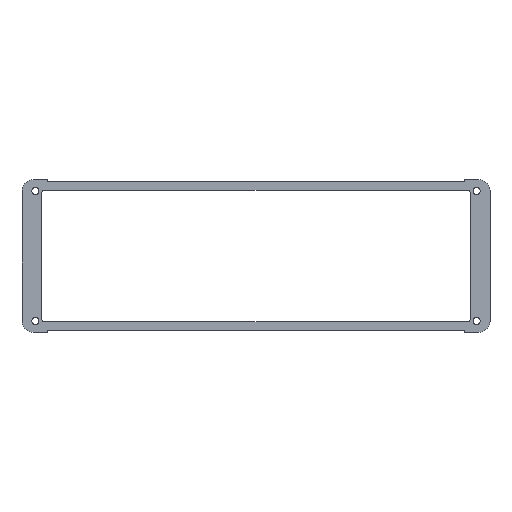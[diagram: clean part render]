
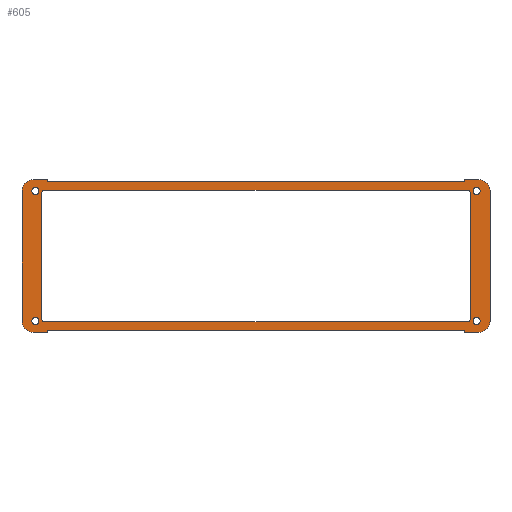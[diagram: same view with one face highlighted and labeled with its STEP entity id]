
A CAD part, top view. The second image highlights one B-rep face of the part: STEP entity #605.
In plain terms, the highlighted planar face has unit normal (0, 0, 1).
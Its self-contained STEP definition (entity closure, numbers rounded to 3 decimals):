
#15=FACE_BOUND('',#102,.T.);
#16=FACE_BOUND('',#103,.T.);
#17=FACE_BOUND('',#104,.T.);
#18=FACE_BOUND('',#105,.T.);
#19=FACE_BOUND('',#106,.T.);
#41=PLANE('',#682);
#71=FACE_OUTER_BOUND('',#101,.T.);
#101=EDGE_LOOP('',(#509,#510,#511,#512,#513,#514,#515,#516,#517,#518,#519,
#520,#521,#522,#523,#524));
#102=EDGE_LOOP('',(#525,#526,#527,#528,#529,#530,#531,#532));
#103=EDGE_LOOP('',(#533));
#104=EDGE_LOOP('',(#534));
#105=EDGE_LOOP('',(#535));
#106=EDGE_LOOP('',(#536));
#115=LINE('',#866,#175);
#119=LINE('',#878,#179);
#123=LINE('',#890,#183);
#127=LINE('',#901,#187);
#133=LINE('',#930,#193);
#138=LINE('',#944,#198);
#142=LINE('',#956,#202);
#145=LINE('',#962,#205);
#148=LINE('',#968,#208);
#151=LINE('',#974,#211);
#154=LINE('',#980,#214);
#158=LINE('',#992,#218);
#162=LINE('',#1004,#222);
#165=LINE('',#1010,#225);
#168=LINE('',#1016,#228);
#171=LINE('',#1021,#231);
#175=VECTOR('',#696,10.);
#179=VECTOR('',#708,10.);
#183=VECTOR('',#720,10.);
#187=VECTOR('',#732,10.);
#193=VECTOR('',#764,10.);
#198=VECTOR('',#777,10.);
#202=VECTOR('',#789,10.);
#205=VECTOR('',#794,10.);
#208=VECTOR('',#799,10.);
#211=VECTOR('',#804,10.);
#214=VECTOR('',#809,10.);
#218=VECTOR('',#821,10.);
#222=VECTOR('',#833,10.);
#225=VECTOR('',#838,10.);
#228=VECTOR('',#843,10.);
#231=VECTOR('',#848,10.);
#233=CIRCLE('',#631,1.);
#235=CIRCLE('',#635,1.);
#237=CIRCLE('',#639,1.);
#239=CIRCLE('',#643,1.);
#242=CIRCLE('',#648,1.25);
#244=CIRCLE('',#651,1.25);
#246=CIRCLE('',#654,1.25);
#248=CIRCLE('',#657,1.25);
#249=CIRCLE('',#660,4.);
#251=CIRCLE('',#664,4.);
#253=CIRCLE('',#672,4.);
#255=CIRCLE('',#676,4.);
#257=VERTEX_POINT('',#856);
#258=VERTEX_POINT('',#857);
#261=VERTEX_POINT('',#865);
#263=VERTEX_POINT('',#871);
#265=VERTEX_POINT('',#877);
#267=VERTEX_POINT('',#883);
#269=VERTEX_POINT('',#889);
#271=VERTEX_POINT('',#895);
#274=VERTEX_POINT('',#906);
#276=VERTEX_POINT('',#912);
#278=VERTEX_POINT('',#918);
#280=VERTEX_POINT('',#924);
#281=VERTEX_POINT('',#928);
#282=VERTEX_POINT('',#929);
#285=VERTEX_POINT('',#937);
#287=VERTEX_POINT('',#943);
#289=VERTEX_POINT('',#949);
#291=VERTEX_POINT('',#955);
#293=VERTEX_POINT('',#961);
#295=VERTEX_POINT('',#967);
#297=VERTEX_POINT('',#973);
#299=VERTEX_POINT('',#979);
#301=VERTEX_POINT('',#985);
#303=VERTEX_POINT('',#991);
#305=VERTEX_POINT('',#997);
#307=VERTEX_POINT('',#1003);
#309=VERTEX_POINT('',#1009);
#311=VERTEX_POINT('',#1015);
#313=EDGE_CURVE('',#257,#258,#233,.T.);
#317=EDGE_CURVE('',#258,#261,#115,.T.);
#320=EDGE_CURVE('',#261,#263,#235,.T.);
#323=EDGE_CURVE('',#263,#265,#119,.T.);
#326=EDGE_CURVE('',#265,#267,#237,.T.);
#329=EDGE_CURVE('',#267,#269,#123,.T.);
#332=EDGE_CURVE('',#269,#271,#239,.T.);
#335=EDGE_CURVE('',#271,#257,#127,.T.);
#339=EDGE_CURVE('',#274,#274,#242,.T.);
#342=EDGE_CURVE('',#276,#276,#244,.T.);
#345=EDGE_CURVE('',#278,#278,#246,.T.);
#348=EDGE_CURVE('',#280,#280,#248,.T.);
#349=EDGE_CURVE('',#281,#282,#133,.T.);
#353=EDGE_CURVE('',#282,#285,#249,.T.);
#356=EDGE_CURVE('',#285,#287,#138,.T.);
#359=EDGE_CURVE('',#287,#289,#251,.T.);
#362=EDGE_CURVE('',#289,#291,#142,.T.);
#365=EDGE_CURVE('',#291,#293,#145,.T.);
#368=EDGE_CURVE('',#293,#295,#148,.T.);
#371=EDGE_CURVE('',#295,#297,#151,.T.);
#374=EDGE_CURVE('',#297,#299,#154,.T.);
#377=EDGE_CURVE('',#299,#301,#253,.T.);
#380=EDGE_CURVE('',#301,#303,#158,.T.);
#383=EDGE_CURVE('',#303,#305,#255,.T.);
#386=EDGE_CURVE('',#305,#307,#162,.T.);
#389=EDGE_CURVE('',#307,#309,#165,.T.);
#392=EDGE_CURVE('',#309,#311,#168,.T.);
#395=EDGE_CURVE('',#311,#281,#171,.T.);
#509=ORIENTED_EDGE('',*,*,#349,.F.);
#510=ORIENTED_EDGE('',*,*,#395,.F.);
#511=ORIENTED_EDGE('',*,*,#392,.F.);
#512=ORIENTED_EDGE('',*,*,#389,.F.);
#513=ORIENTED_EDGE('',*,*,#386,.F.);
#514=ORIENTED_EDGE('',*,*,#383,.F.);
#515=ORIENTED_EDGE('',*,*,#380,.F.);
#516=ORIENTED_EDGE('',*,*,#377,.F.);
#517=ORIENTED_EDGE('',*,*,#374,.F.);
#518=ORIENTED_EDGE('',*,*,#371,.F.);
#519=ORIENTED_EDGE('',*,*,#368,.F.);
#520=ORIENTED_EDGE('',*,*,#365,.F.);
#521=ORIENTED_EDGE('',*,*,#362,.F.);
#522=ORIENTED_EDGE('',*,*,#359,.F.);
#523=ORIENTED_EDGE('',*,*,#356,.F.);
#524=ORIENTED_EDGE('',*,*,#353,.F.);
#525=ORIENTED_EDGE('',*,*,#313,.T.);
#526=ORIENTED_EDGE('',*,*,#317,.T.);
#527=ORIENTED_EDGE('',*,*,#320,.T.);
#528=ORIENTED_EDGE('',*,*,#323,.T.);
#529=ORIENTED_EDGE('',*,*,#326,.T.);
#530=ORIENTED_EDGE('',*,*,#329,.T.);
#531=ORIENTED_EDGE('',*,*,#332,.T.);
#532=ORIENTED_EDGE('',*,*,#335,.T.);
#533=ORIENTED_EDGE('',*,*,#339,.T.);
#534=ORIENTED_EDGE('',*,*,#342,.T.);
#535=ORIENTED_EDGE('',*,*,#345,.T.);
#536=ORIENTED_EDGE('',*,*,#348,.T.);
#605=ADVANCED_FACE('',(#71,#15,#16,#17,#18,#19),#41,.T.);
#631=AXIS2_PLACEMENT_3D('',#858,#688,#689);
#635=AXIS2_PLACEMENT_3D('',#872,#701,#702);
#639=AXIS2_PLACEMENT_3D('',#884,#713,#714);
#643=AXIS2_PLACEMENT_3D('',#896,#725,#726);
#648=AXIS2_PLACEMENT_3D('',#908,#739,#740);
#651=AXIS2_PLACEMENT_3D('',#914,#746,#747);
#654=AXIS2_PLACEMENT_3D('',#920,#753,#754);
#657=AXIS2_PLACEMENT_3D('',#926,#760,#761);
#660=AXIS2_PLACEMENT_3D('',#938,#770,#771);
#664=AXIS2_PLACEMENT_3D('',#950,#782,#783);
#672=AXIS2_PLACEMENT_3D('',#986,#814,#815);
#676=AXIS2_PLACEMENT_3D('',#998,#826,#827);
#682=AXIS2_PLACEMENT_3D('',#1023,#850,#851);
#688=DIRECTION('center_axis',(0.,0.,-1.));
#689=DIRECTION('ref_axis',(0.,-1.,0.));
#696=DIRECTION('',(1.,0.,0.));
#701=DIRECTION('center_axis',(0.,0.,-1.));
#702=DIRECTION('ref_axis',(-1.,0.,0.));
#708=DIRECTION('',(0.,-1.,0.));
#713=DIRECTION('center_axis',(0.,0.,-1.));
#714=DIRECTION('ref_axis',(0.,1.,0.));
#720=DIRECTION('',(-1.,0.,0.));
#725=DIRECTION('center_axis',(0.,0.,-1.));
#726=DIRECTION('ref_axis',(1.,0.,0.));
#732=DIRECTION('',(0.,1.,0.));
#739=DIRECTION('center_axis',(0.,0.,-1.));
#740=DIRECTION('ref_axis',(-1.,0.,0.));
#746=DIRECTION('center_axis',(0.,0.,-1.));
#747=DIRECTION('ref_axis',(-1.,0.,0.));
#753=DIRECTION('center_axis',(0.,0.,-1.));
#754=DIRECTION('ref_axis',(-1.,0.,0.));
#760=DIRECTION('center_axis',(0.,0.,-1.));
#761=DIRECTION('ref_axis',(-1.,0.,0.));
#764=DIRECTION('',(-1.,0.,0.));
#770=DIRECTION('center_axis',(0.,0.,-1.));
#771=DIRECTION('ref_axis',(1.,0.,0.));
#777=DIRECTION('',(0.,1.,0.));
#782=DIRECTION('center_axis',(0.,0.,-1.));
#783=DIRECTION('ref_axis',(0.,-1.,0.));
#789=DIRECTION('',(1.,0.,0.));
#794=DIRECTION('',(0.,-1.,0.));
#799=DIRECTION('',(1.,0.,0.));
#804=DIRECTION('',(0.,1.,0.));
#809=DIRECTION('',(1.,0.,0.));
#814=DIRECTION('center_axis',(0.,0.,-1.));
#815=DIRECTION('ref_axis',(-1.,0.,0.));
#821=DIRECTION('',(0.,-1.,0.));
#826=DIRECTION('center_axis',(0.,0.,-1.));
#827=DIRECTION('ref_axis',(0.,1.,0.));
#833=DIRECTION('',(-1.,0.,0.));
#838=DIRECTION('',(0.,1.,0.));
#843=DIRECTION('',(-1.,0.,0.));
#848=DIRECTION('',(0.,-1.,0.));
#850=DIRECTION('center_axis',(0.,0.,1.));
#851=DIRECTION('ref_axis',(1.,0.,0.));
#856=CARTESIAN_POINT('',(-75.75,22.25,1.575));
#857=CARTESIAN_POINT('',(-74.75,23.25,1.575));
#858=CARTESIAN_POINT('Origin',(-74.75,22.25,1.575));
#865=CARTESIAN_POINT('',(74.75,23.25,1.575));
#866=CARTESIAN_POINT('',(-37.375,23.25,1.575));
#871=CARTESIAN_POINT('',(75.75,22.25,1.575));
#872=CARTESIAN_POINT('Origin',(74.75,22.25,1.575));
#877=CARTESIAN_POINT('',(75.75,-22.25,1.575));
#878=CARTESIAN_POINT('',(75.75,11.125,1.575));
#883=CARTESIAN_POINT('',(74.75,-23.25,1.575));
#884=CARTESIAN_POINT('Origin',(74.75,-22.25,1.575));
#889=CARTESIAN_POINT('',(-74.75,-23.25,1.575));
#890=CARTESIAN_POINT('',(37.375,-23.25,1.575));
#895=CARTESIAN_POINT('',(-75.75,-22.25,1.575));
#896=CARTESIAN_POINT('Origin',(-74.75,-22.25,1.575));
#901=CARTESIAN_POINT('',(-75.75,-11.125,1.575));
#906=CARTESIAN_POINT('',(79.25,23.,1.575));
#908=CARTESIAN_POINT('Origin',(78.,23.,1.575));
#912=CARTESIAN_POINT('',(79.25,-23.,1.575));
#914=CARTESIAN_POINT('Origin',(78.,-23.,1.575));
#918=CARTESIAN_POINT('',(-76.75,-23.,1.575));
#920=CARTESIAN_POINT('Origin',(-78.,-23.,1.575));
#924=CARTESIAN_POINT('',(-76.75,23.,1.575));
#926=CARTESIAN_POINT('Origin',(-78.,23.,1.575));
#928=CARTESIAN_POINT('',(-73.75,-27.,1.575));
#929=CARTESIAN_POINT('',(-78.75,-27.,1.575));
#930=CARTESIAN_POINT('',(-73.75,-27.,1.575));
#937=CARTESIAN_POINT('',(-82.75,-23.,1.575));
#938=CARTESIAN_POINT('Origin',(-78.75,-23.,1.575));
#943=CARTESIAN_POINT('',(-82.75,23.,1.575));
#944=CARTESIAN_POINT('',(-82.75,-23.,1.575));
#949=CARTESIAN_POINT('',(-78.75,27.,1.575));
#950=CARTESIAN_POINT('Origin',(-78.75,23.,1.575));
#955=CARTESIAN_POINT('',(-73.75,27.,1.575));
#956=CARTESIAN_POINT('',(-78.75,27.,1.575));
#961=CARTESIAN_POINT('',(-73.75,26.25,1.575));
#962=CARTESIAN_POINT('',(-73.75,27.,1.575));
#967=CARTESIAN_POINT('',(73.75,26.25,1.575));
#968=CARTESIAN_POINT('',(-73.75,26.25,1.575));
#973=CARTESIAN_POINT('',(73.75,27.,1.575));
#974=CARTESIAN_POINT('',(73.75,26.25,1.575));
#979=CARTESIAN_POINT('',(78.75,27.,1.575));
#980=CARTESIAN_POINT('',(73.75,27.,1.575));
#985=CARTESIAN_POINT('',(82.75,23.,1.575));
#986=CARTESIAN_POINT('Origin',(78.75,23.,1.575));
#991=CARTESIAN_POINT('',(82.75,-23.,1.575));
#992=CARTESIAN_POINT('',(82.75,23.,1.575));
#997=CARTESIAN_POINT('',(78.75,-27.,1.575));
#998=CARTESIAN_POINT('Origin',(78.75,-23.,1.575));
#1003=CARTESIAN_POINT('',(73.75,-27.,1.575));
#1004=CARTESIAN_POINT('',(78.75,-27.,1.575));
#1009=CARTESIAN_POINT('',(73.75,-26.25,1.575));
#1010=CARTESIAN_POINT('',(73.75,-27.,1.575));
#1015=CARTESIAN_POINT('',(-73.75,-26.25,1.575));
#1016=CARTESIAN_POINT('',(73.75,-26.25,1.575));
#1021=CARTESIAN_POINT('',(-73.75,-26.25,1.575));
#1023=CARTESIAN_POINT('Origin',(0.,0.,
1.575));
